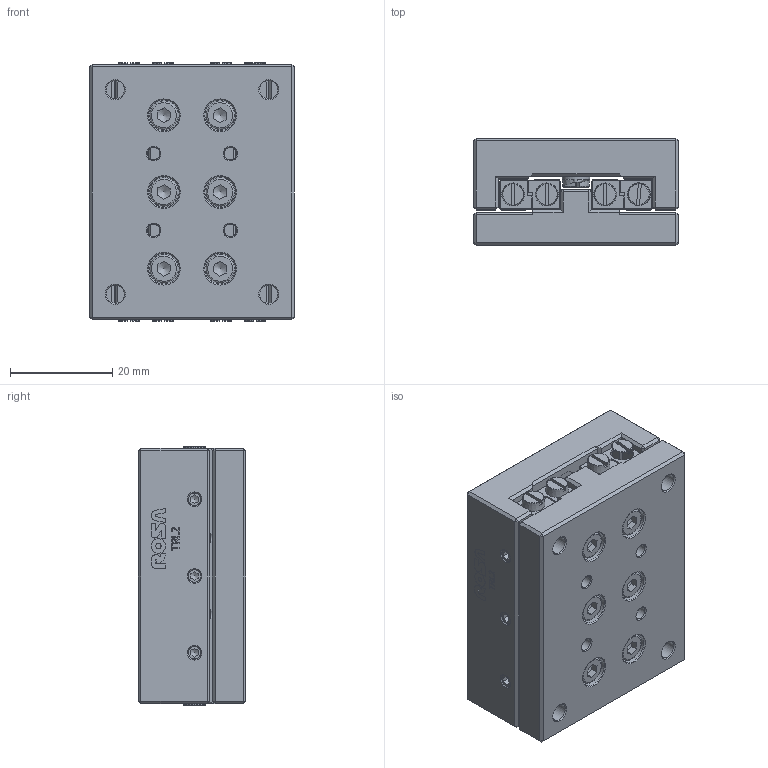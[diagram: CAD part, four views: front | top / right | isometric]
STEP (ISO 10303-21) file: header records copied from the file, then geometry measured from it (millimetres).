
FILE_DESCRIPTION(/* description */ ('Tavola TRL02 L=50 mm'),/* implementation_level */ '2;1');
FILE_NAME(/* name */ 'TRL020050-00.stp',/* time_stamp */ '2024-01-31T08:28:49+01:00',/* author */ ('ufficiotecnico'),/* organization */ (''),/* preprocessor_version */ 'ST-DEVELOPER v20',/* originating_system */ 'Autodesk Inventor 2024',/* authorisation */ '');
FILE_SCHEMA (('AUTOMOTIVE_DESIGN { 1 0 10303 214 3 1 1 }'));
Length unit declared in the file: millimetre
Products named in the file (2): TRL020050-00; TRL020050-00_1
Assembly tree (1 placements, depth 2):
  TRL020050-00
    TRL020050-00_1
Bounding box: 40 x 21 x 50.6 mm (x, y, z)
Volume: 37825.9 mm3; surface area: 17823.8 mm2
Topology: 6 solids, 6 shells, 1421 faces, 3653 edges, 2340 vertices
Faces by surface type: plane 961, cylinder 159, bspline 156, cone 99, torus 46
Full cylindrical faces by diameter (mm): 0.774 x4, 1.039 x1, 2 x4, 2.128 x4, 2.459 x16, 2.856 x1, 3 x12, 3.5 x4, 4.4 x12, 5.5 x12, 6 x16
Entity records: 44541 total; most frequent: CARTESIAN_POINT 10028, ORIENTED_EDGE 7276, DIRECTION 6401, EDGE_CURVE 3638, LINE 2413, VECTOR 2413, VERTEX_POINT 2340, AXIS2_PLACEMENT_3D 1994
